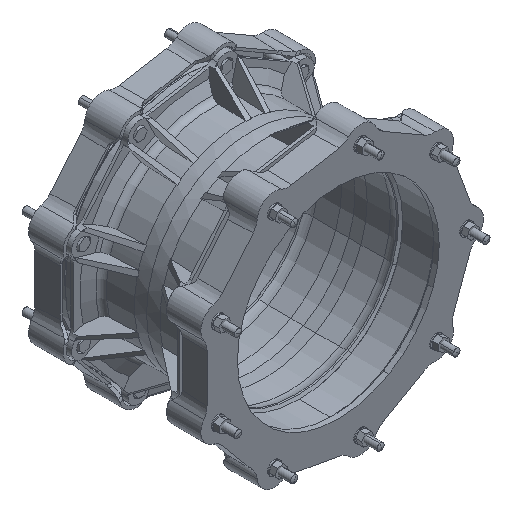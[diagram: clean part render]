
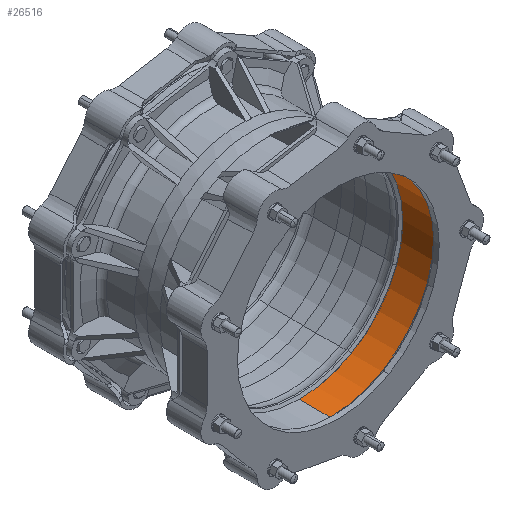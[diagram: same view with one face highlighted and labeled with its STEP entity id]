
A CAD part, isometric view. The second image highlights one B-rep face of the part: STEP entity #26516.
In plain terms, the highlighted cylindrical face has radius 285 mm (diameter 570 mm), a partial arc.
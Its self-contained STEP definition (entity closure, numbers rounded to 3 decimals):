
#26340=CARTESIAN_POINT('',(0.,-42.5,0.));
#26341=DIRECTION('',(0.,-1.,0.));
#26342=DIRECTION('',(0.,0.,-1.));
#26343=AXIS2_PLACEMENT_3D('',#26340,#26341,#26342);
#26350=DIRECTION('',(0.,-1.,0.));
#26351=VECTOR('',#26350,85.);
#26352=CARTESIAN_POINT('',(0.,42.5,-285.));
#26353=LINE('',#26352,#26351);
#26354=CARTESIAN_POINT('',(0.,42.5,0.));
#26355=DIRECTION('',(0.,-1.,0.));
#26356=DIRECTION('',(0.,0.,-1.));
#26357=AXIS2_PLACEMENT_3D('',#26354,#26355,#26356);
#26359=DIRECTION('',(0.,-1.,0.));
#26360=VECTOR('',#26359,85.);
#26361=CARTESIAN_POINT('',(0.,42.5,285.));
#26362=LINE('',#26361,#26360);
#26397=CARTESIAN_POINT('',(0.,42.5,-285.));
#26398=CARTESIAN_POINT('',(0.,-42.5,-285.));
#26399=VERTEX_POINT('',#26397);
#26400=VERTEX_POINT('',#26398);
#26407=CARTESIAN_POINT('',(0.,42.5,285.));
#26408=CARTESIAN_POINT('',(0.,-42.5,285.));
#26409=VERTEX_POINT('',#26407);
#26410=VERTEX_POINT('',#26408);
#26504=CARTESIAN_POINT('',(0.,-46.75,0.));
#26505=DIRECTION('',(0.,1.,0.));
#26506=DIRECTION('',(0.,0.,-1.));
#26507=AXIS2_PLACEMENT_3D('',#26504,#26505,#26506);
#26508=CYLINDRICAL_SURFACE('',#26507,285.);
#26509=ORIENTED_EDGE('',*,*,#26494,.F.);
#26511=ORIENTED_EDGE('',*,*,#26510,.T.);
#26512=ORIENTED_EDGE('',*,*,#26497,.T.);
#26513=ORIENTED_EDGE('',*,*,#26484,.F.);
#26514=EDGE_LOOP('',(#26509,#26511,#26512,#26513));
#26515=FACE_OUTER_BOUND('',#26514,.F.);
#26516=ADVANCED_FACE('',(#26515),#26508,.F.);
#26344=CIRCLE('',#26343,285.);
#26358=CIRCLE('',#26357,285.);
#26484=EDGE_CURVE('',#26400,#26410,#26344,.T.);
#26494=EDGE_CURVE('',#26399,#26400,#26353,.T.);
#26497=EDGE_CURVE('',#26409,#26410,#26362,.T.);
#26510=EDGE_CURVE('',#26399,#26409,#26358,.T.);
